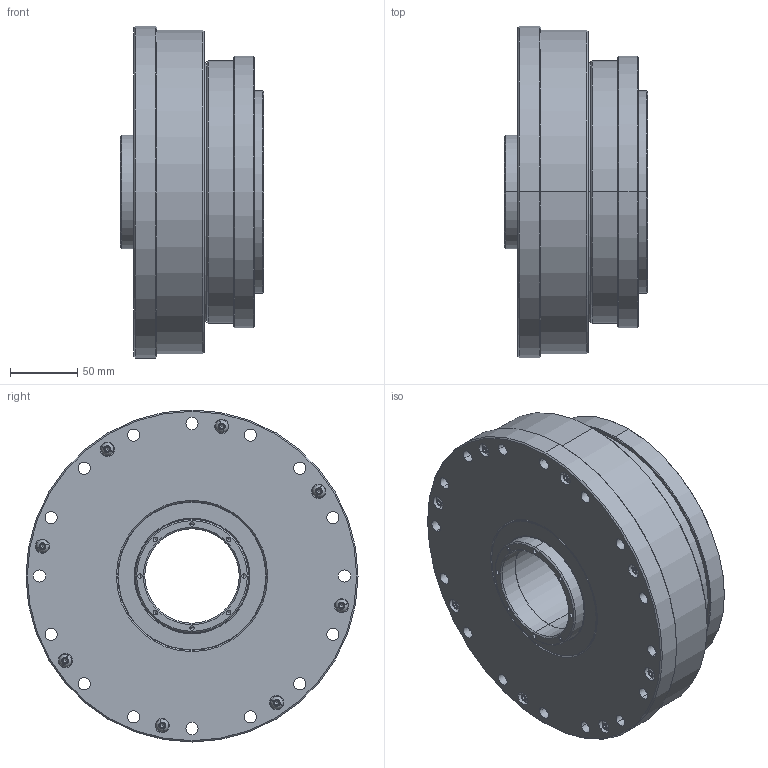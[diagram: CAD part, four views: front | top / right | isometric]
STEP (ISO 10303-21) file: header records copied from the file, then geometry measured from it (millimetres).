
FILE_DESCRIPTION (( 'STEP AP203' ), '1' );
FILE_NAME ('FHG-58-XXX-AH.STEP', '2019-08-30T02:32:44', ( '' ), ( '' ), 'SwSTEP 2.0', 'SolidWorks 2016', '' );
FILE_SCHEMA (( 'CONFIG_CONTROL_DESIGN' ));
Length unit declared in the file: millimetre
Products named in the file (1): FHG-58-XXX-AH
Bounding box: 106 x 246 x 246 mm (x, y, z)
Volume: 2280981.3 mm3; surface area: 732475.6 mm2
Topology: 25 solids, 25 shells, 1060 faces, 2420 edges, 1450 vertices
Faces by surface type: cylinder 488, cone 280, plane 220, torus 56, sphere 16
Entity records: 30241 total; most frequent: DIRECTION 5666, CARTESIAN_POINT 5447, ORIENTED_EDGE 4672, AXIS2_PLACEMENT_3D 2389, EDGE_CURVE 2336, VERTEX_POINT 1450, EDGE_LOOP 1404, CIRCLE 1328
